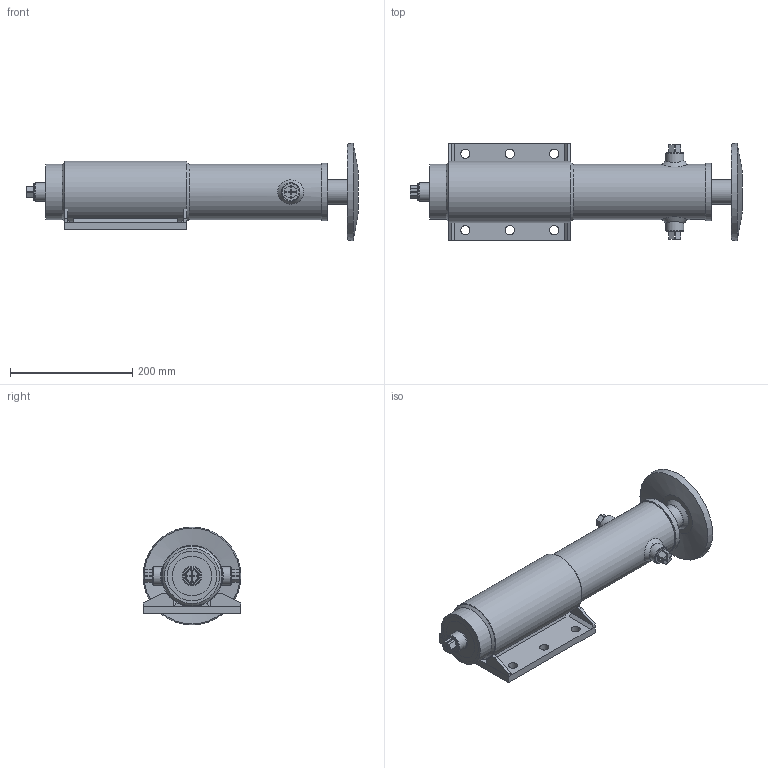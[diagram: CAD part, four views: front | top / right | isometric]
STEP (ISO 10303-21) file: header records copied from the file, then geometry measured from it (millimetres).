
FILE_DESCRIPTION( ( 'Unknown' ), '1' );
FILE_NAME( 'E:/LIBRERIA_3d/CILINDRI/HMS/HMS00800400300.stp', 'Unknown', ( 'Unknown' ), ( 'Unknown' ), 'PSStep 17.0.49', 'Unknown', ' ' );
FILE_SCHEMA( ( 'AUTOMOTIVE_DESIGN { 1 0 10303 214 1 1 1 1 }' ) );
Length unit declared in the file: millimetre
Products named in the file (42): CG09508040; STLS0800900300-oa7; Saldatura d'angolo 1-oa5; MAT_PRIMA_TUBO_FT09008000-oa6; CBSC220800; CHMSASP080; Saldatura d'angolo 1-oa3; Protrusione 1-oa4; CHMSTUB080; CHMSPR0800; CHMSRF0800; CTFV0802720; AVG3006120; Assem1; Saldatura d'angolo 1-oa0; Saldatura d'angolo 2-oa1; Saldatura con preparazione 1-oa2; CHMSCFI080; CHMSPTB080; CSCS004010; APSEP43527; SBLS0400800300
Assembly tree (29 placements, depth 3):
  Saldatura d'angolo 1-oa5
  Saldatura d'angolo 1-oa5
  Saldatura d'angolo 1-oa5
  Saldatura d'angolo 1-oa5
  Saldatura d'angolo 1-oa3
Bounding box: 542.5 x 160 x 160 mm (x, y, z)
Volume: 2573809.3 mm3; surface area: 729499.6 mm2
Topology: 43 solids, 43 shells, 440 faces, 936 edges, 609 vertices
Faces by surface type: plane 237, cylinder 102, cone 57, torus 40, bspline 4
Full cylindrical faces by diameter (mm): 4.25 x2, 4.917 x1, 5 x2, 6 x1, 7.5 x3, 8 x2, 12 x1, 15 x6, 18.631 x4, 20.955 x3, 22 x1, 24 x1, 25 x1, 27 x2, 27.2 x3, 28 x3, 30 x7, 34.2 x1, 40 x7, 43 x3, 48.6 x1, 50 x2, 60 x1, 74.16 x2, 75 x1, 78.34 x2, 80 x1, 80.3 x1, 80.5 x1, 80.6 x1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
Entity records: 14462 total; most frequent: CARTESIAN_POINT 4302, DIRECTION 1522, ORIENTED_EDGE 1028, AXIS2_PLACEMENT_3D 642, EDGE_LOOP 592, EDGE_CURVE 514, FACE_OUTER_BOUND 474, VERTEX_POINT 424
